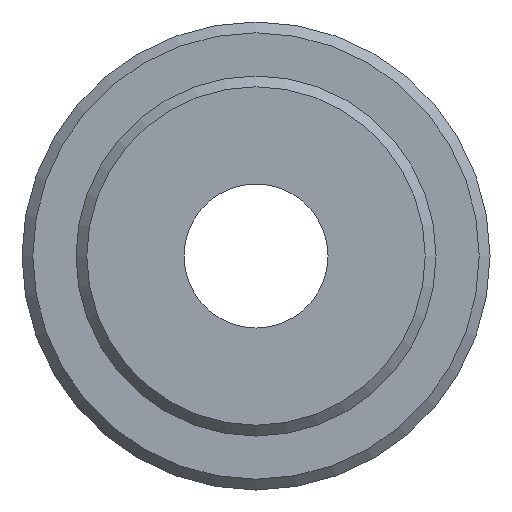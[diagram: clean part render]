
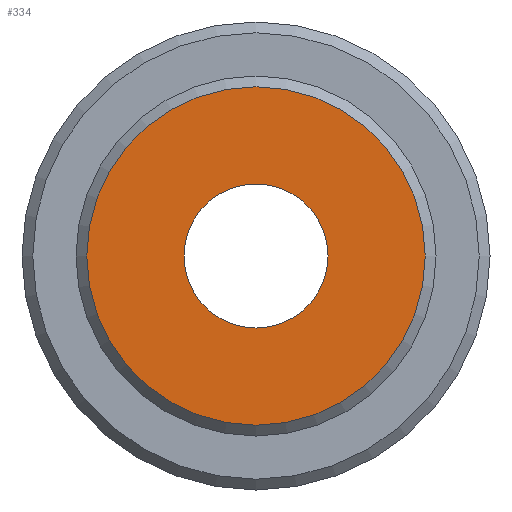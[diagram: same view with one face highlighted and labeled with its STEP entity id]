
A CAD part, front view. The second image highlights one B-rep face of the part: STEP entity #334.
In plain terms, the highlighted planar face has unit normal (0, -1, 0).
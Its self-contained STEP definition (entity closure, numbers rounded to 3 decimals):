
#22=FACE_BOUND('',#109,.T.);
#29=PLANE('',#411);
#82=FACE_OUTER_BOUND('',#108,.T.);
#108=EDGE_LOOP('',(#299));
#109=EDGE_LOOP('',(#300));
#127=CIRCLE('',#377,2.);
#147=CIRCLE('',#409,4.7);
#158=VERTEX_POINT('',#567);
#177=VERTEX_POINT('',#625);
#192=EDGE_CURVE('',#158,#158,#127,.T.);
#219=EDGE_CURVE('',#177,#177,#147,.T.);
#299=ORIENTED_EDGE('',*,*,#219,.F.);
#300=ORIENTED_EDGE('',*,*,#192,.T.);
#334=ADVANCED_FACE('',(#82,#22),#29,.T.);
#377=AXIS2_PLACEMENT_3D('',#569,#451,#452);
#409=AXIS2_PLACEMENT_3D('',#627,#522,#523);
#411=AXIS2_PLACEMENT_3D('',#630,#527,#528);
#451=DIRECTION('center_axis',(0.,1.,0.));
#452=DIRECTION('ref_axis',(1.,0.,0.));
#522=DIRECTION('center_axis',(0.,1.,0.));
#523=DIRECTION('ref_axis',(-1.,0.,0.));
#527=DIRECTION('center_axis',(0.,-1.,0.));
#528=DIRECTION('ref_axis',(0.,0.,-1.));
#567=CARTESIAN_POINT('',(-2.,0.,0.));
#569=CARTESIAN_POINT('Origin',(0.,0.,0.));
#625=CARTESIAN_POINT('',(4.7,0.,0.));
#627=CARTESIAN_POINT('Origin',(0.,0.,0.));
#630=CARTESIAN_POINT('Origin',(5.,0.,0.));
